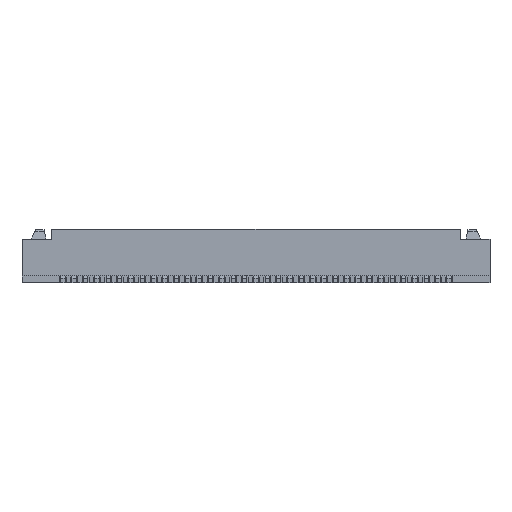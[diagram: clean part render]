
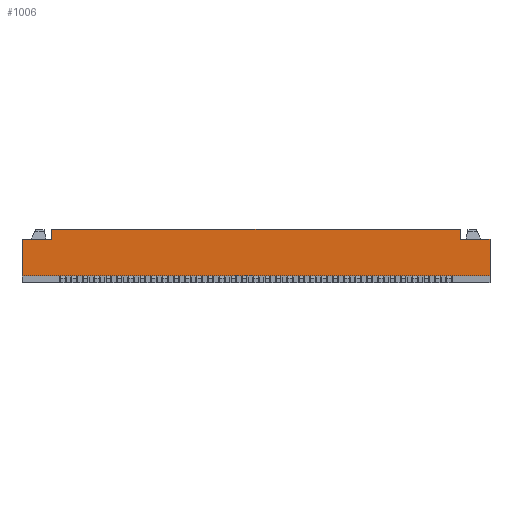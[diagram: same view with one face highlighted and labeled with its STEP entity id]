
A CAD part, front view. The second image highlights one B-rep face of the part: STEP entity #1006.
In plain terms, the highlighted planar face has unit normal (0, -1, 0).
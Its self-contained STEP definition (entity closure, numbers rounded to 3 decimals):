
#399=CARTESIAN_POINT('Vertex',(-9.,-2.4,1.92)) ;
#402=CARTESIAN_POINT('Line Origine',(-9.,-2.4,2.135)) ;
#406=CARTESIAN_POINT('Vertex',(-9.,-2.4,2.35)) ;
#944=CARTESIAN_POINT('Axis2P3D Location',(0.,-2.4,0.3)) ;
#949=CARTESIAN_POINT('Line Origine',(-9.65,-2.4,1.92)) ;
#953=CARTESIAN_POINT('Vertex',(-10.3,-2.4,1.92)) ;
#956=CARTESIAN_POINT('Line Origine',(-10.3,-2.4,1.11)) ;
#960=CARTESIAN_POINT('Vertex',(-10.3,-2.4,0.3)) ;
#963=CARTESIAN_POINT('Line Origine',(0.,-2.4,0.3)) ;
#967=CARTESIAN_POINT('Vertex',(10.3,-2.4,0.3)) ;
#970=CARTESIAN_POINT('Line Origine',(10.3,-2.4,1.11)) ;
#974=CARTESIAN_POINT('Vertex',(10.3,-2.4,1.92)) ;
#977=CARTESIAN_POINT('Line Origine',(9.65,-2.4,1.92)) ;
#981=CARTESIAN_POINT('Vertex',(9.,-2.4,1.92)) ;
#984=CARTESIAN_POINT('Line Origine',(9.,-2.4,2.135)) ;
#988=CARTESIAN_POINT('Vertex',(9.,-2.4,2.35)) ;
#991=CARTESIAN_POINT('Line Origine',(0.,-2.4,2.35)) ;
#403=DIRECTION('Vector Direction',(0.,0.,-1.)) ;
#945=DIRECTION('Axis2P3D Direction',(0.,1.,0.)) ;
#946=DIRECTION('Axis2P3D XDirection',(0.,0.,1.)) ;
#950=DIRECTION('Vector Direction',(1.,0.,0.)) ;
#957=DIRECTION('Vector Direction',(0.,0.,1.)) ;
#964=DIRECTION('Vector Direction',(1.,0.,0.)) ;
#971=DIRECTION('Vector Direction',(0.,0.,1.)) ;
#978=DIRECTION('Vector Direction',(-1.,0.,0.)) ;
#985=DIRECTION('Vector Direction',(0.,0.,-1.)) ;
#992=DIRECTION('Vector Direction',(1.,0.,0.)) ;
#947=AXIS2_PLACEMENT_3D('Plane Axis2P3D',#944,#945,#946) ;
#997=ORIENTED_EDGE('',*,*,#408,.T.) ;
#998=ORIENTED_EDGE('',*,*,#955,.F.) ;
#999=ORIENTED_EDGE('',*,*,#962,.T.) ;
#1000=ORIENTED_EDGE('',*,*,#969,.T.) ;
#1001=ORIENTED_EDGE('',*,*,#976,.F.) ;
#1002=ORIENTED_EDGE('',*,*,#983,.T.) ;
#1003=ORIENTED_EDGE('',*,*,#990,.F.) ;
#1004=ORIENTED_EDGE('',*,*,#995,.F.) ;
#404=VECTOR('Line Direction',#403,1.) ;
#951=VECTOR('Line Direction',#950,1.) ;
#958=VECTOR('Line Direction',#957,1.) ;
#965=VECTOR('Line Direction',#964,1.) ;
#972=VECTOR('Line Direction',#971,1.) ;
#979=VECTOR('Line Direction',#978,1.) ;
#986=VECTOR('Line Direction',#985,1.) ;
#993=VECTOR('Line Direction',#992,1.) ;
#1006=ADVANCED_FACE('\X2\96F64EF651E04F554F53\X0\',(#1005),#948,.F.) ;
#408=EDGE_CURVE('',#407,#400,#405,.T.) ;
#955=EDGE_CURVE('',#954,#400,#952,.T.) ;
#962=EDGE_CURVE('',#954,#961,#959,.F.) ;
#969=EDGE_CURVE('',#961,#968,#966,.T.) ;
#976=EDGE_CURVE('',#975,#968,#973,.F.) ;
#983=EDGE_CURVE('',#975,#982,#980,.T.) ;
#990=EDGE_CURVE('',#989,#982,#987,.T.) ;
#995=EDGE_CURVE('',#407,#989,#994,.T.) ;
#996=EDGE_LOOP('',(#997,#998,#999,#1000,#1001,#1002,#1003,#1004)) ;
#1005=FACE_OUTER_BOUND('',#996,.T.) ;
#405=LINE('Line',#402,#404) ;
#952=LINE('Line',#949,#951) ;
#959=LINE('Line',#956,#958) ;
#966=LINE('Line',#963,#965) ;
#973=LINE('Line',#970,#972) ;
#980=LINE('Line',#977,#979) ;
#987=LINE('Line',#984,#986) ;
#994=LINE('Line',#991,#993) ;
#948=PLANE('Plane',#947) ;
#400=VERTEX_POINT('',#399) ;
#407=VERTEX_POINT('',#406) ;
#954=VERTEX_POINT('',#953) ;
#961=VERTEX_POINT('',#960) ;
#968=VERTEX_POINT('',#967) ;
#975=VERTEX_POINT('',#974) ;
#982=VERTEX_POINT('',#981) ;
#989=VERTEX_POINT('',#988) ;
